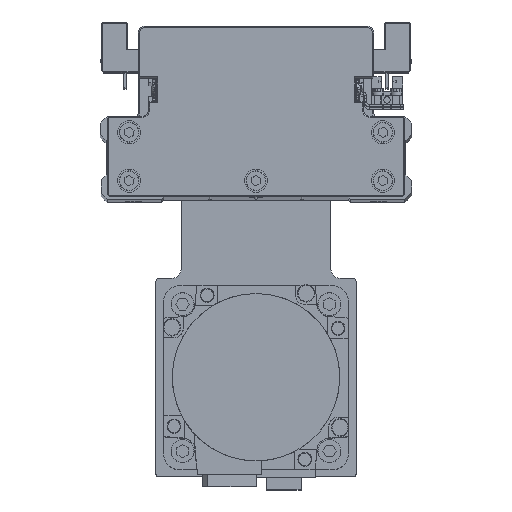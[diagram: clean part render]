
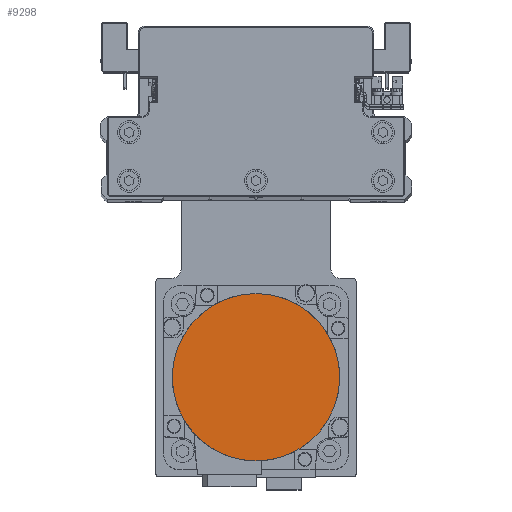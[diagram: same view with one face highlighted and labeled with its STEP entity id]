
A CAD part, top view. The second image highlights one B-rep face of the part: STEP entity #9298.
In plain terms, the highlighted planar face has unit normal (0, 0, 1) as drawn and (0, 0, -1) by its records, which use the part's own axes.
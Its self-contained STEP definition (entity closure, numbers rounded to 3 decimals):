
#1078 = EDGE_CURVE ( 'NONE', #34693, #21704, #31771, .T. ) ;
#1400 = DIRECTION ( 'NONE',  ( 0., 0., 1. ) ) ;
#7335 = DIRECTION ( 'NONE',  ( 0., 0., 1. ) ) ;
#8630 = ORIENTED_EDGE ( 'NONE', *, *, #13535, .F. ) ;
#9298 = ADVANCED_FACE ( 'NONE', ( #10363 ), #22691, .F. ) ;
#10363 = FACE_OUTER_BOUND ( 'NONE', #29037, .T. ) ;
#11100 = CARTESIAN_POINT ( 'NONE',  ( 0., 0., -122.2 ) ) ;
#12170 = AXIS2_PLACEMENT_3D ( 'NONE', #11100, #23428, #35757 ) ;
#13535 = EDGE_CURVE ( 'NONE', #21704, #34693, #29596, .T. ) ;
#13768 = DIRECTION ( 'NONE',  ( 0., -1., 0. ) ) ;
#14361 = AXIS2_PLACEMENT_3D ( 'NONE', #29109, #1400, #13768 ) ;
#19278 = CARTESIAN_POINT ( 'NONE',  ( 0., -36.3, -122.2 ) ) ;
#19659 = DIRECTION ( 'NONE',  ( 1., 0., 0. ) ) ;
#21704 = VERTEX_POINT ( 'NONE', #23658 ) ;
#22691 = PLANE ( 'NONE',  #32055 ) ;
#23428 = DIRECTION ( 'NONE',  ( 0., 0., 1. ) ) ;
#23658 = CARTESIAN_POINT ( 'NONE',  ( 0., 36.3, -122.2 ) ) ;
#25954 = ORIENTED_EDGE ( 'NONE', *, *, #1078, .F. ) ;
#29037 = EDGE_LOOP ( 'NONE', ( #8630, #25954 ) ) ;
#29109 = CARTESIAN_POINT ( 'NONE',  ( 0., 0., -122.2 ) ) ;
#29596 = CIRCLE ( 'NONE', #12170, 36.3 ) ;
#31771 = CIRCLE ( 'NONE', #14361, 36.3 ) ;
#32055 = AXIS2_PLACEMENT_3D ( 'NONE', #35023, #7335, #19659 ) ;
#34693 = VERTEX_POINT ( 'NONE', #19278 ) ;
#35023 = CARTESIAN_POINT ( 'NONE',  ( 0., 0., -122.2 ) ) ;
#35757 = DIRECTION ( 'NONE',  ( 0., 1., 0. ) ) ;
